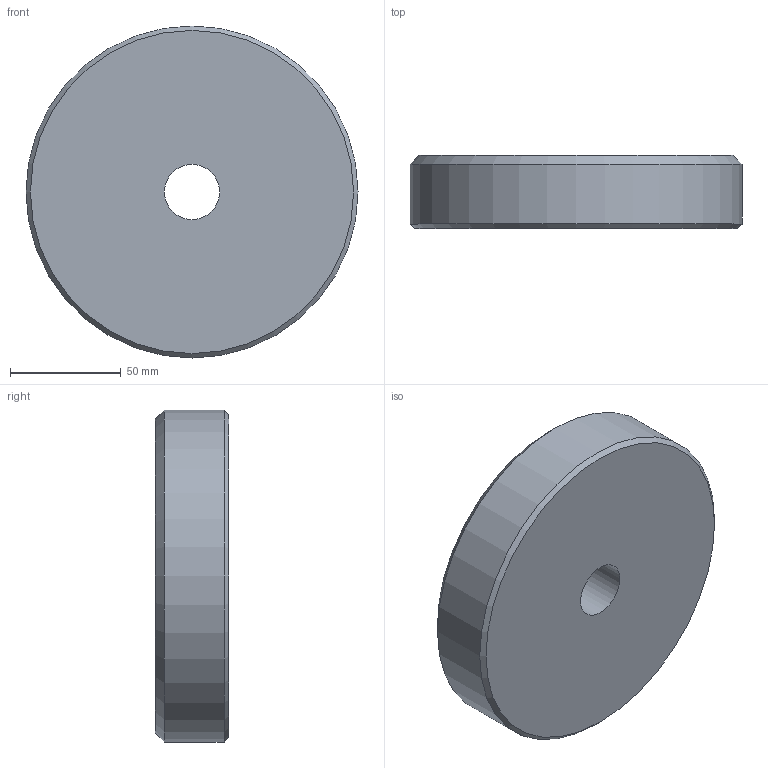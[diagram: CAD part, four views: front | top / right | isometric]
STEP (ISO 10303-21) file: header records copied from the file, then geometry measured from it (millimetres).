
FILE_DESCRIPTION(/* description */ (''),/* implementation_level */ '2;1');
FILE_NAME(/* name */ 'C:\Users\stagistaCAD\Desktop\00001750.stp',/* time_stamp */ '2018-06-15T15:58:10+02:00',/* author */ ('stagistacad'),/* organization */ (''),/* preprocessor_version */ 'ST-DEVELOPER v15.6',/* originating_system */ 'Autodesk Inventor 2015',/* authorisation */ '');
FILE_SCHEMA (('AUTOMOTIVE_DESIGN { 1 0 10303 214 3 1 1 }'));
Length unit declared in the file: millimetre
Products named in the file (1): 00001750
Bounding box: 150 x 33 x 150 mm (x, y, z)
Volume: 562322.3 mm3; surface area: 50821.6 mm2
Topology: 1 solids, 1 shells, 6 faces, 10 edges, 6 vertices
Faces by surface type: cylinder 2, cone 2, plane 2
Full cylindrical faces by diameter (mm): 25 x1, 150 x1
Entity records: 152 total; most frequent: DIRECTION 26, CARTESIAN_POINT 19, AXIS2_PLACEMENT_3D 13, EDGE_LOOP 12, ORIENTED_EDGE 12, FACE_BOUND 6, FACE_OUTER_BOUND 6, CIRCLE 6
